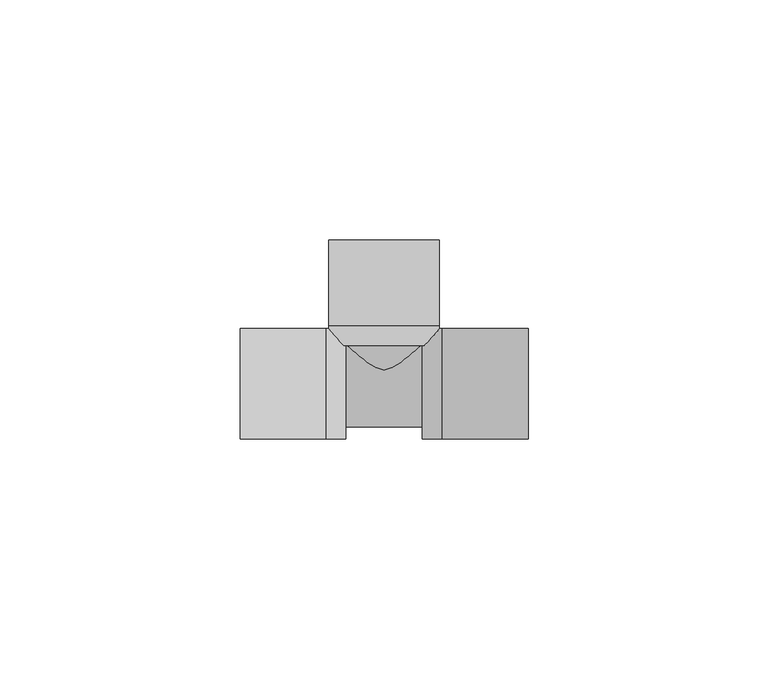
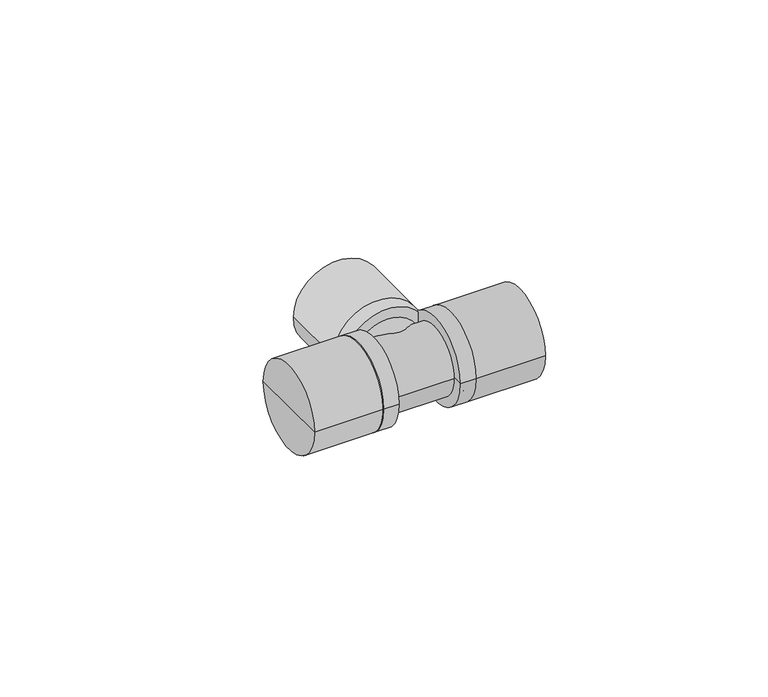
"""IFC4 building model written with IfcOpenShell, lengths in millimetres: pipe fitting geometry, KAN-therm Push 18x2 trójnik : KAN-therm Push 18x2 trójnik."""

from ifc_helpers import new_model, si_unit, frame, origin, place, context, project, spatial, circle_curve, source, transform, mapped, element, save
from ifc_brep_helpers import plane_surface, cylinder_surface, advanced_brep


def pipe_fitting_cfe5aa1c(model_context):
    return source(origin(), model_context, "Body", "AdvancedBrep", [
        advanced_brep(
        [(-11.5, 12.0, 0.0), (0.0, 12.0, 0.0), (11.5, 12.0, 0.0), (-11.5, 8.0, 0.0), (11.5, 8.0, 0.0), (0.0, 8.0, 0.0)],
        [
            (0, 1),
            (1, 2),
            (2, 0, circle_curve(frame((0.0, 12.0, 0.0), z_axis=(0.0, 1.0, 0.0), x_axis=(1.0000000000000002, 0.0, 0.0)), 11.5)),
            (0, 2, circle_curve(frame((0.0, 12.0, 0.0), z_axis=(0.0, 1.0, 0.0), x_axis=(1.0000000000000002, 0.0, 0.0)), 11.5)),
            (3, 0),
            (2, 4),
            (4, 3, circle_curve(frame((0.0, 8.0, 0.0), z_axis=(0.0, 1.0, 0.0), x_axis=(1.0000000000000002, 0.0, 0.0)), 11.5)),
            (3, 4, circle_curve(frame((0.0, 8.0, 0.0), z_axis=(0.0, 1.0, 0.0), x_axis=(1.0000000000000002, 0.0, 0.0)), 11.5)),
            (5, 3),
            (4, 5),
        ],
        [
            plane_surface(frame((0.0, 12.0, 0.0), z_axis=(0.0, 1.0, 0.0), x_axis=(1.0, 0.0, 0.0))),
            cylinder_surface(frame((0.0, 2007.0, 0.0), z_axis=(0.0, -1.0000000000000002, 0.0), x_axis=(1.0000000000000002, 0.0, 0.0)), 11.5),
            plane_surface(frame((0.0, 8.0, 0.0), z_axis=(0.0, -1.0, 0.0), x_axis=(1.0, 0.0, 0.0))),
        ],
        [
            (0, [[1, 2, 3]]),
            (0, [[-2, -1, 4]]),
            (1, [[5, -3, 6, 7]]),
            (1, [[-6, -4, -5, 8]]),
            (2, [[9, -7, 10]]),
            (2, [[-10, -8, -9]]),
        ],
    ),
        advanced_brep(
        [(-11.5, 30.0, 0.0), (0.0, 30.0, 0.0), (11.5, 30.0, 0.0), (-11.5, 12.0, 0.0), (11.5, 12.0, 0.0), (0.0, 12.0, 0.0)],
        [
            (0, 1),
            (1, 2),
            (2, 0, circle_curve(frame((0.0, 30.0, 0.0), z_axis=(0.0, 1.0, 0.0), x_axis=(1.0000000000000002, 0.0, 0.0)), 11.5)),
            (0, 2, circle_curve(frame((0.0, 30.0, 0.0), z_axis=(0.0, 1.0, 0.0), x_axis=(1.0000000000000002, 0.0, 0.0)), 11.5)),
            (3, 0),
            (2, 4),
            (4, 3, circle_curve(frame((0.0, 12.0, 0.0), z_axis=(0.0, 1.0, 0.0), x_axis=(1.0000000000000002, 0.0, 0.0)), 11.5)),
            (3, 4, circle_curve(frame((0.0, 12.0, 0.0), z_axis=(0.0, 1.0, 0.0), x_axis=(1.0000000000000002, 0.0, 0.0)), 11.5)),
            (5, 3),
            (4, 5),
        ],
        [
            plane_surface(frame((0.0, 30.0, 0.0), z_axis=(0.0, 1.0, 0.0), x_axis=(1.0, 0.0, 0.0))),
            cylinder_surface(frame((0.0, 2007.0, 0.0), z_axis=(0.0, -1.0000000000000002, 0.0), x_axis=(1.0000000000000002, 0.0, 0.0)), 11.5),
            plane_surface(frame((0.0, 12.0, 0.0), z_axis=(0.0, -1.0, 0.0), x_axis=(1.0, 0.0, 0.0))),
        ],
        [
            (0, [[1, 2, 3]]),
            (0, [[-2, -1, 4]]),
            (1, [[5, -3, 6, 7]]),
            (1, [[-6, -4, -5, 8]]),
            (2, [[9, -7, 10]]),
            (2, [[-10, -8, -9]]),
        ],
    ),
        advanced_brep(
        [(-12.0, -11.5, 0.0), (-12.0, 0.0, 0.0), (-12.0, 11.5, 0.0), (-8.0, -11.5, 0.0), (-8.0, 11.5, 0.0), (-8.0, 0.0, 0.0)],
        [
            (0, 1),
            (1, 2),
            (2, 0, circle_curve(frame((-12.0, 0.0, 0.0), z_axis=(-1.0, 0.0, 0.0), x_axis=(0.0, 1.0, 0.0)), 11.5)),
            (0, 2, circle_curve(frame((-12.0, 0.0, 0.0), z_axis=(-1.0, 0.0, 0.0), x_axis=(0.0, 1.0, 0.0)), 11.5)),
            (3, 0),
            (2, 4),
            (4, 3, circle_curve(frame((-8.0, 0.0, 0.0), z_axis=(-1.0, 0.0, 0.0), x_axis=(0.0, 1.0, 0.0)), 11.5)),
            (3, 4, circle_curve(frame((-8.0, 0.0, 0.0), z_axis=(-1.0, 0.0, 0.0), x_axis=(0.0, 1.0, 0.0)), 11.5)),
            (5, 3),
            (4, 5),
        ],
        [
            plane_surface(frame((-12.0, 0.0, 0.0), z_axis=(-1.0, 0.0, 0.0), x_axis=(0.0, 1.0, 0.0))),
            cylinder_surface(frame((-2007.0, 0.0, 0.0), z_axis=(1.0, 0.0, 0.0), x_axis=(0.0, 1.0, 0.0)), 11.5),
            plane_surface(frame((-8.0, 0.0, 0.0), z_axis=(1.0, 0.0, 0.0), x_axis=(0.0, 1.0, 0.0))),
        ],
        [
            (0, [[1, 2, 3]]),
            (0, [[-2, -1, 4]]),
            (1, [[5, -3, 6, 7]]),
            (1, [[-6, -4, -5, 8]]),
            (2, [[9, -7, 10]]),
            (2, [[-10, -8, -9]]),
        ],
    ),
        advanced_brep(
        [(-30.0, -11.5, 0.0), (-30.0, 0.0, 0.0), (-30.0, 11.5, 0.0), (-12.0, -11.5, 0.0), (-12.0, 11.5, 0.0), (-12.0, 0.0, 0.0)],
        [
            (0, 1),
            (1, 2),
            (2, 0, circle_curve(frame((-30.0, 0.0, 0.0), z_axis=(-1.0, 0.0, 0.0), x_axis=(0.0, 1.0, 0.0)), 11.5)),
            (0, 2, circle_curve(frame((-30.0, 0.0, 0.0), z_axis=(-1.0, 0.0, 0.0), x_axis=(0.0, 1.0, 0.0)), 11.5)),
            (3, 0),
            (2, 4),
            (4, 3, circle_curve(frame((-12.0, 0.0, 0.0), z_axis=(-1.0, 0.0, 0.0), x_axis=(0.0, 1.0, 0.0)), 11.5)),
            (3, 4, circle_curve(frame((-12.0, 0.0, 0.0), z_axis=(-1.0, 0.0, 0.0), x_axis=(0.0, 1.0, 0.0)), 11.5)),
            (5, 3),
            (4, 5),
        ],
        [
            plane_surface(frame((-30.0, 0.0, 0.0), z_axis=(-1.0, 0.0, 0.0), x_axis=(0.0, 1.0, 0.0))),
            cylinder_surface(frame((-2007.0, 0.0, 0.0), z_axis=(1.0, 0.0, 0.0), x_axis=(0.0, 1.0, 0.0)), 11.5),
            plane_surface(frame((-12.0, 0.0, 0.0), z_axis=(1.0, 0.0, 0.0), x_axis=(0.0, 1.0, 0.0))),
        ],
        [
            (0, [[1, 2, 3]]),
            (0, [[-2, -1, 4]]),
            (1, [[5, -3, 6, 7]]),
            (1, [[-6, -4, -5, 8]]),
            (2, [[9, -7, 10]]),
            (2, [[-10, -8, -9]]),
        ],
    ),
        advanced_brep(
        [(12.0, -11.5, 0.0), (12.0, 11.5, 0.0), (12.0, 0.0, 0.0), (8.0, -11.5, 0.0), (8.0, 11.5, 0.0), (8.0, 0.0, 0.0)],
        [
            (0, 1, circle_curve(frame((12.0, 0.0, 0.0), z_axis=(1.0, 0.0, 0.0), x_axis=(0.0, 1.0, 0.0)), 11.5)),
            (1, 2),
            (2, 0),
            (1, 0, circle_curve(frame((12.0, 0.0, 0.0), z_axis=(1.0, 0.0, 0.0), x_axis=(0.0, 1.0, 0.0)), 11.5)),
            (3, 4, circle_curve(frame((8.0, 0.0, 0.0), z_axis=(1.0, 0.0, 0.0), x_axis=(0.0, 1.0, 0.0)), 11.5)),
            (4, 1),
            (0, 3),
            (4, 3, circle_curve(frame((8.0, 0.0, 0.0), z_axis=(1.0, 0.0, 0.0), x_axis=(0.0, 1.0, 0.0)), 11.5)),
            (5, 4),
            (3, 5),
        ],
        [
            plane_surface(frame((12.0, 0.0, 0.0), z_axis=(1.0, 0.0, 0.0), x_axis=(0.0, 1.0, 0.0))),
            cylinder_surface(frame((2007.0, 0.0, 0.0), z_axis=(-1.0, 0.0, 0.0), x_axis=(0.0, 1.0, 0.0)), 11.5),
            plane_surface(frame((8.0, 0.0, 0.0), z_axis=(-1.0, 0.0, 0.0), x_axis=(0.0, 1.0, 0.0))),
        ],
        [
            (0, [[1, 2, 3]]),
            (0, [[4, -3, -2]]),
            (1, [[5, 6, -1, 7]]),
            (1, [[8, -7, -4, -6]]),
            (2, [[9, -5, 10]]),
            (2, [[-10, -8, -9]]),
        ],
    ),
        advanced_brep(
        [(30.0, -11.5, 0.0), (30.0, 11.5, 0.0), (30.0, 0.0, 0.0), (12.0, -11.5, 0.0), (12.0, 11.5, 0.0), (12.0, 0.0, 0.0)],
        [
            (0, 1, circle_curve(frame((30.0, 0.0, 0.0), z_axis=(1.0, 0.0, 0.0), x_axis=(0.0, 1.0, 0.0)), 11.5)),
            (1, 2),
            (2, 0),
            (1, 0, circle_curve(frame((30.0, 0.0, 0.0), z_axis=(1.0, 0.0, 0.0), x_axis=(0.0, 1.0, 0.0)), 11.5)),
            (3, 4, circle_curve(frame((12.0, 0.0, 0.0), z_axis=(1.0, 0.0, 0.0), x_axis=(0.0, 1.0, 0.0)), 11.5)),
            (4, 1),
            (0, 3),
            (4, 3, circle_curve(frame((12.0, 0.0, 0.0), z_axis=(1.0, 0.0, 0.0), x_axis=(0.0, 1.0, 0.0)), 11.5)),
            (5, 4),
            (3, 5),
        ],
        [
            plane_surface(frame((30.0, 0.0, 0.0), z_axis=(1.0, 0.0, 0.0), x_axis=(0.0, 1.0, 0.0))),
            cylinder_surface(frame((2007.0, 0.0, 0.0), z_axis=(-1.0, 0.0, 0.0), x_axis=(0.0, 1.0, 0.0)), 11.5),
            plane_surface(frame((12.0, 0.0, 0.0), z_axis=(-1.0, 0.0, 0.0), x_axis=(0.0, 1.0, 0.0))),
        ],
        [
            (0, [[1, 2, 3]]),
            (0, [[4, -3, -2]]),
            (1, [[5, 6, -1, 7]]),
            (1, [[8, -7, -4, -6]]),
            (2, [[9, -5, 10]]),
            (2, [[-10, -8, -9]]),
        ],
    ),
        advanced_brep(
        [(12.0, -9.0, 0.0), (12.0, 9.0, 0.0), (12.0, 0.0, 0.0), (-12.0, -9.0, 0.0), (-12.0, 9.0, 0.0), (-12.0, 0.0, 0.0)],
        [
            (0, 1, circle_curve(frame((12.0, 0.0, 0.0), z_axis=(1.0, 0.0, 0.0), x_axis=(0.0, 1.0, 0.0)), 9.0)),
            (1, 2),
            (2, 0),
            (1, 0, circle_curve(frame((12.0, 0.0, 0.0), z_axis=(1.0, 0.0, 0.0), x_axis=(0.0, 1.0, 0.0)), 9.0)),
            (3, 4, circle_curve(frame((-12.0, 0.0, 0.0), z_axis=(1.0, 0.0, 0.0), x_axis=(0.0, 1.0, 0.0)), 9.0)),
            (4, 1),
            (0, 3),
            (4, 3, circle_curve(frame((-12.0, 0.0, 0.0), z_axis=(1.0, 0.0, 0.0), x_axis=(0.0, 1.0, 0.0)), 9.0)),
            (5, 4),
            (3, 5),
        ],
        [
            plane_surface(frame((12.0, 0.0, 0.0), z_axis=(1.0, 0.0, 0.0), x_axis=(0.0, 1.0, 0.0))),
            cylinder_surface(frame((1999.5, 0.0, 0.0), z_axis=(-1.0, 0.0, 0.0), x_axis=(0.0, 1.0, 0.0)), 9.0),
            plane_surface(frame((-12.0, 0.0, 0.0), z_axis=(-1.0, 0.0, 0.0), x_axis=(0.0, 1.0, 0.0))),
        ],
        [
            (0, [[1, 2, 3]]),
            (0, [[4, -3, -2]]),
            (1, [[5, 6, -1, 7]]),
            (1, [[8, -7, -4, -6]]),
            (2, [[9, -5, 10]]),
            (2, [[-10, -8, -9]]),
        ],
    ),
        advanced_brep(
        [(-9.0, 0.0, 0.0), (9.0, 0.0, 0.0), (0.0, 0.0, 0.0), (-9.0, 12.0, 0.0), (9.0, 12.0, 0.0), (0.0, 12.0, 0.0)],
        [
            (0, 1, circle_curve(frame((0.0, 0.0, 0.0), z_axis=(0.0, -1.0, 0.0), x_axis=(1.0, 0.0, 0.0)), 9.0)),
            (1, 2),
            (2, 0),
            (1, 0, circle_curve(frame((0.0, 0.0, 0.0), z_axis=(0.0, -1.0, 0.0), x_axis=(1.0, 0.0, 0.0)), 9.0)),
            (3, 4, circle_curve(frame((0.0, 12.0, 0.0), z_axis=(0.0, -1.0, 0.0), x_axis=(1.0, 0.0, 0.0)), 9.0)),
            (4, 1),
            (0, 3),
            (4, 3, circle_curve(frame((0.0, 12.0, 0.0), z_axis=(0.0, -1.0, 0.0), x_axis=(1.0, 0.0, 0.0)), 9.0)),
            (5, 4),
            (3, 5),
        ],
        [
            plane_surface(frame((0.0, 0.0, 0.0), z_axis=(0.0, -1.0, 0.0), x_axis=(1.0, 0.0, 0.0))),
            cylinder_surface(frame((0.0, 1994.0, 0.0), z_axis=(0.0, 1.0, 0.0), x_axis=(1.0, 0.0, 0.0)), 9.0),
            plane_surface(frame((0.0, 12.0, 0.0), z_axis=(0.0, 1.0, 0.0), x_axis=(1.0, 0.0, 0.0))),
        ],
        [
            (0, [[1, 2, 3]]),
            (0, [[4, -3, -2]]),
            (1, [[5, 6, -1, 7]]),
            (1, [[8, -7, -4, -6]]),
            (2, [[9, -5, 10]]),
            (2, [[-10, -8, -9]]),
        ],
    ),
    ])


if __name__ == "__main__":
    model = new_model("IFC4")
    model_context = context("Model", 3, world=origin())
    ifc_project = project(units=[si_unit("LENGTHUNIT", "METRE", prefix="MILLI")], contexts=[model_context])
    site = spatial("IfcSite", under=ifc_project)
    building = spatial("IfcBuilding", under=site)
    placement = place(None, origin())
    pipe_fitting_shape = pipe_fitting_cfe5aa1c(model_context)
    element("IfcPipeFitting", 1, ObjectType="KAN-therm Push 18x2 trójnik : KAN-therm Push 18x2 trójnik", at=placement, inside=building, context=model_context, shape_type="MappedRepresentation", body=[
        mapped(pipe_fitting_shape, transform((0.0, 0.0, 0.0), x_axis=(1.0, 0.0, 0.0), y_axis=(0.0, 1.0, 0.0), z_axis=(0.0, 0.0, 1.0))),
    ])
    save(model, "model.ifc")
